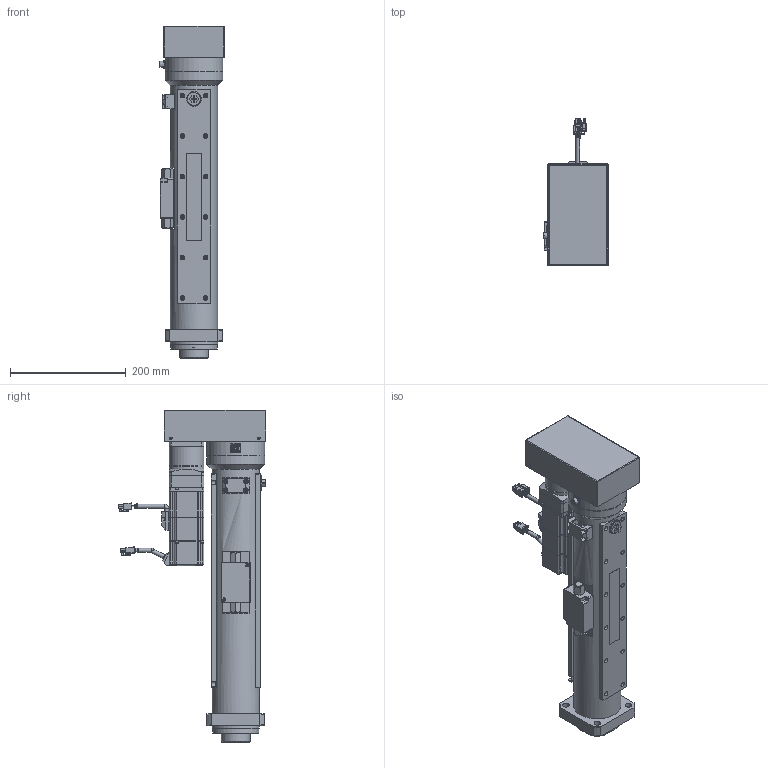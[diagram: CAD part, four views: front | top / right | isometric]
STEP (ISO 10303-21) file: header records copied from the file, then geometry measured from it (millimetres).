
FILE_DESCRIPTION( ('This file contains a STEP AP42 implementation' ,'as created by ZW3D STEP Interface translator.') ,'2;1' );
FILE_NAME( 'OACIS-DW-P003-300-235-A6_ASM_V20.51.stp' ,'26 4 8.152257', (''), ('ZWCAD Software Co.'), 'Version 1.0', 'ZW3D to STEP translator', '' );
FILE_SCHEMA(('AUTOMOTIVE_DESIGN { 1 0 10303 214 1 1 1 1 }'));
Length unit declared in the file: millimetre
Products named in the file (1): 0
Bounding box: 110.7 x 255.3 x 574 mm (x, y, z)
Volume: 3441975.4 mm3; surface area: 786612.4 mm2
Topology: 25 solids, 34 shells, 1993 faces, 5099 edges, 3310 vertices
Faces by surface type: plane 985, cylinder 605, cone 293, torus 61, bspline 30, sphere 19
Full cylindrical faces by diameter (mm): 1 x17, 1.567 x4, 1.754 x2, 1.755 x2, 1.82 x4, 2 x5, 2.2 x4, 2.5 x8, 2.6 x12, 3.2 x4, 3.242 x4, 3.3 x82, 4.134 x6, 4.2 x24, 4.3 x22, 4.5 x16, 4.917 x5, 5 x26, 5.3 x4, 5.5 x18, 6 x4, 6.5 x10, 6.6 x6, 7 x6, 7.2 x1, 8 x26, 8.5 x2, 9 x4, 10 x4, 10.5 x1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
Entity records: 65072 total; most frequent: CARTESIAN_POINT 13442, DIRECTION 10508, ORIENTED_EDGE 10040, EDGE_CURVE 5020, AXIS2_PLACEMENT_3D 3800, VERTEX_POINT 3310, VECTOR 2908, LINE 2908
